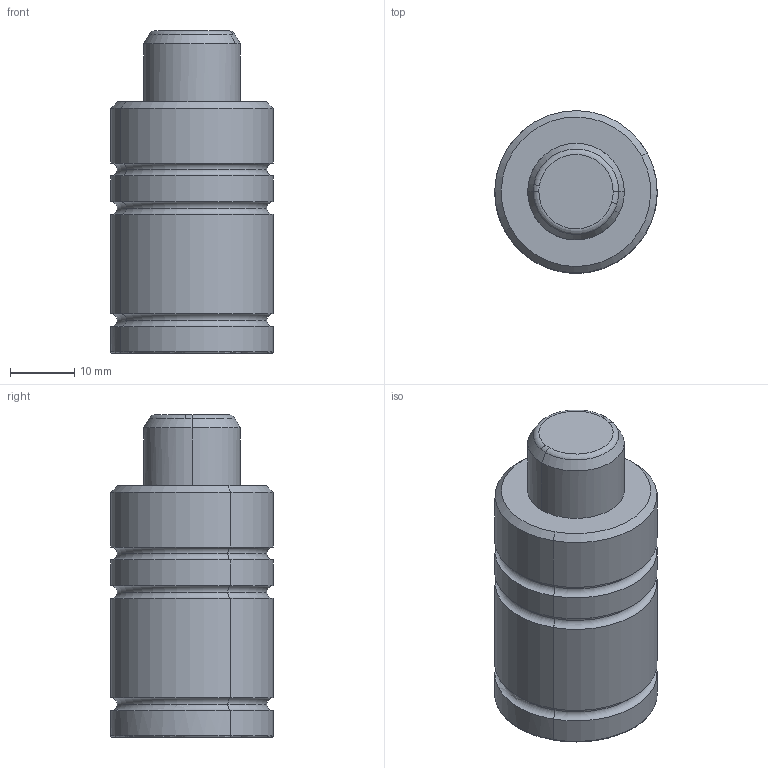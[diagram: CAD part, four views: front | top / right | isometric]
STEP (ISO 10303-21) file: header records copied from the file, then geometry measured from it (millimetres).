
FILE_DESCRIPTION(('CATIA V5 STEP Exchange'),'2;1');
FILE_NAME('W:\CATALOGO GENERAL 2018\FICHEROS CAD\001-MICRO\MICRO 25V\MICRO25Vx10.stp','2021-07-27T06:52:55+00:00',('none'),('none'),'CATIA Version 5 Release 17 (IN-10)','CATIA V5 STEP AP203','none');
FILE_SCHEMA(('CONFIG_CONTROL_DESIGN'));
Length unit declared in the file: millimetre
Products named in the file (1): MICRO25Vx10
Bounding box: 25.19 x 25.19 x 50 mm (x, y, z)
Volume: 20798.1 mm3; surface area: 5176.4 mm2
Topology: 2 solids, 2 shells, 42 faces, 83 edges, 46 vertices
Faces by surface type: torus 18, cylinder 12, cone 7, plane 5
Entity records: 1135 total; most frequent: CARTESIAN_POINT 282, ORIENTED_EDGE 166, DIRECTION 148, AXIS2_PLACEMENT_3D 94, EDGE_CURVE 83, CIRCLE 57, VERTEX_POINT 46, EDGE_LOOP 43
